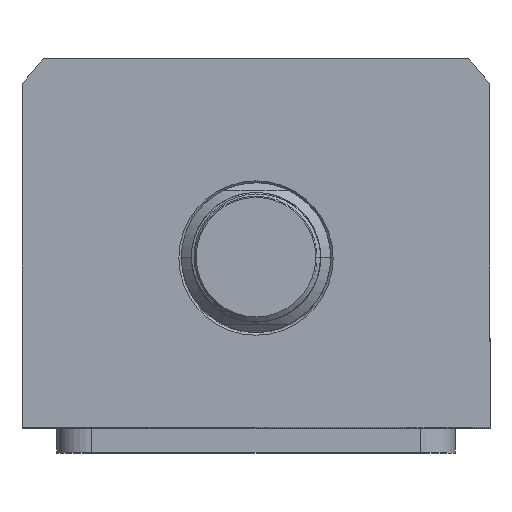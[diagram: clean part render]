
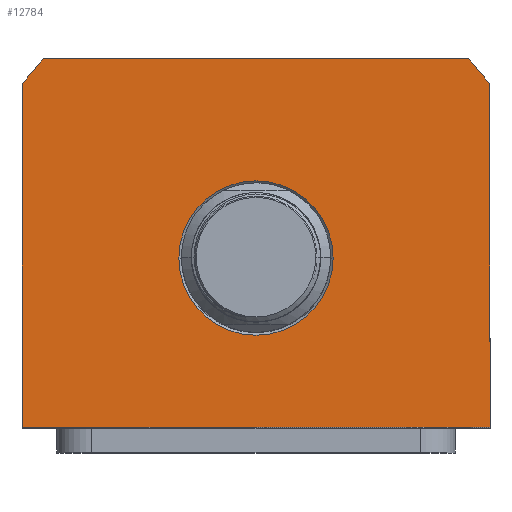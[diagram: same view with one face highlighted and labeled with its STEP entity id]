
A CAD part, top view. The second image highlights one B-rep face of the part: STEP entity #12784.
In plain terms, the highlighted planar face has unit normal (0, 0, 1).
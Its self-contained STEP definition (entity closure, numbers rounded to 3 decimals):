
#225 = EDGE_CURVE ( 'NONE', #1679, #5636, #13345, .T. ) ;
#455 = DIRECTION ( 'NONE',  ( 1., 0., 0. ) ) ;
#584 = EDGE_LOOP ( 'NONE', ( #9281, #9151 ) ) ;
#1138 = EDGE_CURVE ( 'NONE', #17786, #19520, #2930, .T. ) ;
#1629 = VERTEX_POINT ( 'NONE', #1970 ) ;
#1650 = DIRECTION ( 'NONE',  ( 1., 0., 0. ) ) ;
#1679 = VERTEX_POINT ( 'NONE', #5327 ) ;
#1896 = EDGE_LOOP ( 'NONE', ( #16298, #19475, #8015, #19457, #9587, #5889 ) ) ;
#1970 = CARTESIAN_POINT ( 'NONE',  ( 42.688, 40., 65. ) ) ;
#2006 = VERTEX_POINT ( 'NONE', #11244 ) ;
#2450 = AXIS2_PLACEMENT_3D ( 'NONE', #15144, #10548, #4480 ) ;
#2655 = EDGE_CURVE ( 'NONE', #1629, #4632, #17010, .T. ) ;
#2930 = CIRCLE ( 'NONE', #9553, 15.5 ) ;
#2964 = EDGE_CURVE ( 'NONE', #4632, #1679, #17473, .T. ) ;
#3140 = CARTESIAN_POINT ( 'NONE',  ( 0., 0., 65. ) ) ;
#3356 = CIRCLE ( 'NONE', #2450, 58.5 ) ;
#4480 = DIRECTION ( 'NONE',  ( 1., 0., 0. ) ) ;
#4632 = VERTEX_POINT ( 'NONE', #19298 ) ;
#4672 = CARTESIAN_POINT ( 'NONE',  ( 0., 0., 65. ) ) ;
#4810 = DIRECTION ( 'NONE',  ( -1., 0., 0. ) ) ;
#4936 = EDGE_CURVE ( 'NONE', #19520, #17786, #13400, .T. ) ;
#4975 = CARTESIAN_POINT ( 'NONE',  ( 0., 0., 65. ) ) ;
#5327 = CARTESIAN_POINT ( 'NONE',  ( -47., 34.832, 65. ) ) ;
#5508 = CARTESIAN_POINT ( 'NONE',  ( 47., 34.832, 65. ) ) ;
#5636 = VERTEX_POINT ( 'NONE', #6139 ) ;
#5809 = DIRECTION ( 'NONE',  ( 0., 0., 1. ) ) ;
#5889 = ORIENTED_EDGE ( 'NONE', *, *, #225, .T. ) ;
#6139 = CARTESIAN_POINT ( 'NONE',  ( -47., -34., 65. ) ) ;
#7788 = DIRECTION ( 'NONE',  ( 1., 0., 0. ) ) ;
#8015 = ORIENTED_EDGE ( 'NONE', *, *, #10699, .T. ) ;
#8080 = DIRECTION ( 'NONE',  ( 1., 0., 0. ) ) ;
#8166 = AXIS2_PLACEMENT_3D ( 'NONE', #4975, #15632, #455 ) ;
#8204 = CARTESIAN_POINT ( 'NONE',  ( 0., 0., 65. ) ) ;
#9151 = ORIENTED_EDGE ( 'NONE', *, *, #1138, .T. ) ;
#9281 = ORIENTED_EDGE ( 'NONE', *, *, #4936, .T. ) ;
#9314 = CARTESIAN_POINT ( 'NONE',  ( 47., -34., 65. ) ) ;
#9553 = AXIS2_PLACEMENT_3D ( 'NONE', #8204, #18874, #8080 ) ;
#9587 = ORIENTED_EDGE ( 'NONE', *, *, #2964, .T. ) ;
#10548 = DIRECTION ( 'NONE',  ( 0., 0., 1. ) ) ;
#10699 = EDGE_CURVE ( 'NONE', #2006, #1629, #3356, .T. ) ;
#10887 = CARTESIAN_POINT ( 'NONE',  ( 47., -34., 65. ) ) ;
#10928 = DIRECTION ( 'NONE',  ( 0., 0., 1. ) ) ;
#11067 = CARTESIAN_POINT ( 'NONE',  ( -42.688, 40., 65. ) ) ;
#11244 = CARTESIAN_POINT ( 'NONE',  ( 47., 34.832, 65. ) ) ;
#11650 = VERTEX_POINT ( 'NONE', #9314 ) ;
#11773 = LINE ( 'NONE', #5508, #16792 ) ;
#11902 = VECTOR ( 'NONE', #14424, 1000. ) ;
#12102 = AXIS2_PLACEMENT_3D ( 'NONE', #4672, #5809, #16400 ) ;
#12784 = ADVANCED_FACE ( 'NONE', ( #16419, #16650 ), #18529, .T. ) ;
#13345 = LINE ( 'NONE', #14229, #11902 ) ;
#13400 = CIRCLE ( 'NONE', #8166, 15.5 ) ;
#13682 = CARTESIAN_POINT ( 'NONE',  ( -15.5, 0., 65. ) ) ;
#13717 = AXIS2_PLACEMENT_3D ( 'NONE', #3140, #10928, #7788 ) ;
#14229 = CARTESIAN_POINT ( 'NONE',  ( -47., -34., 65. ) ) ;
#14424 = DIRECTION ( 'NONE',  ( 0., -1., 0. ) ) ;
#15144 = CARTESIAN_POINT ( 'NONE',  ( 0., 0., 65. ) ) ;
#15632 = DIRECTION ( 'NONE',  ( 0., 0., -1. ) ) ;
#15923 = EDGE_CURVE ( 'NONE', #5636, #11650, #18797, .T. ) ;
#16230 = DIRECTION ( 'NONE',  ( 0., 1., 0. ) ) ;
#16298 = ORIENTED_EDGE ( 'NONE', *, *, #15923, .T. ) ;
#16400 = DIRECTION ( 'NONE',  ( 1., 0., 0. ) ) ;
#16419 = FACE_BOUND ( 'NONE', #584, .T. ) ;
#16650 = FACE_OUTER_BOUND ( 'NONE', #1896, .T. ) ;
#16792 = VECTOR ( 'NONE', #16230, 1000. ) ;
#17010 = LINE ( 'NONE', #11067, #17491 ) ;
#17448 = CARTESIAN_POINT ( 'NONE',  ( 15.5, 0., 65. ) ) ;
#17473 = CIRCLE ( 'NONE', #12102, 58.5 ) ;
#17491 = VECTOR ( 'NONE', #4810, 1000. ) ;
#17786 = VERTEX_POINT ( 'NONE', #13682 ) ;
#18529 = PLANE ( 'NONE',  #13717 ) ;
#18797 = LINE ( 'NONE', #10887, #19477 ) ;
#18874 = DIRECTION ( 'NONE',  ( 0., 0., -1. ) ) ;
#19298 = CARTESIAN_POINT ( 'NONE',  ( -42.688, 40., 65. ) ) ;
#19457 = ORIENTED_EDGE ( 'NONE', *, *, #2655, .T. ) ;
#19475 = ORIENTED_EDGE ( 'NONE', *, *, #19670, .T. ) ;
#19477 = VECTOR ( 'NONE', #1650, 1000. ) ;
#19520 = VERTEX_POINT ( 'NONE', #17448 ) ;
#19670 = EDGE_CURVE ( 'NONE', #11650, #2006, #11773, .T. ) ;
